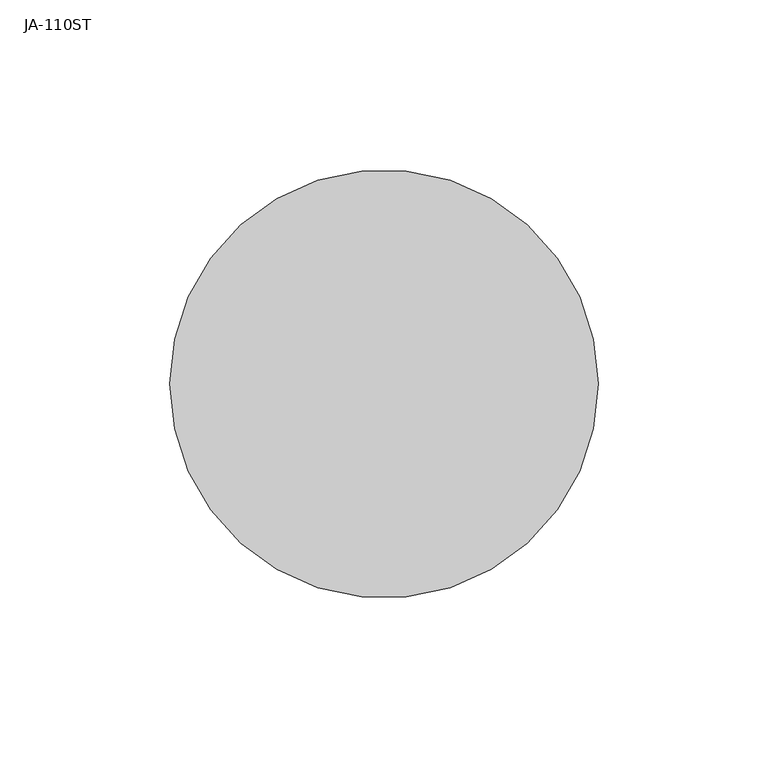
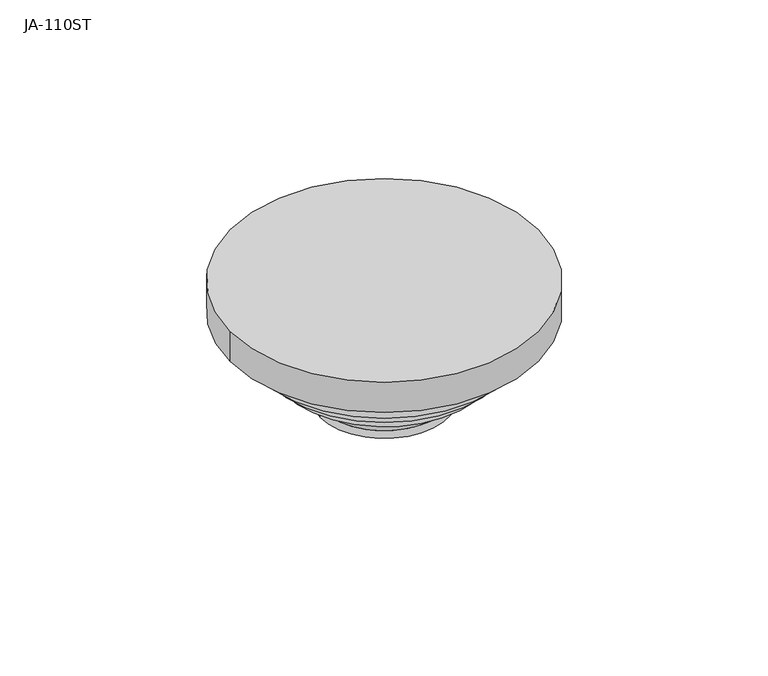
"""IFC4 building model written with IfcOpenShell, lengths in millimetres: proxy geometry, Environmentální detektory.CC : JA-110ST."""

from ifc_helpers import new_model, si_unit, frame, origin, origin_with_axes, place, context, project, spatial, polyline, circle_curve, source, transform, mapped, element, save
from ifc_brep_helpers import plane_surface, cylinder_surface, revolved_surface, advanced_brep


def ja_110st_ebcdd1e6(model_context):
    return source(origin(), model_context, "Body", "AdvancedBrep", [
        advanced_brep(
        [(26.2652348, 0.0, -50.0), (-26.2652348, 0.0, -50.0), (-63.0, 0.0, 0.0), (63.0, 0.0, 0.0), (-63.0, 0.0, -13.1032869), (63.0, 0.0, -13.1032869), (-26.2652348, 0.0, -46.6666657), (26.2652348, 0.0, -46.6666657), (31.3644661, 0.0, -40.7), (-31.3644661, 0.0, -40.7), (31.3644661, 0.0, -37.7), (-31.3644661, 0.0, -37.7), (40.9, 0.0, -34.7), (-40.9, 0.0, -34.7), (40.9, 0.0, -31.7), (-40.9, 0.0, -31.7), (46.9, 0.0, -28.7), (-46.9, 0.0, -28.7), (46.9, 0.0, -25.7), (-46.9, 0.0, -25.7), (52.9, 0.0, -22.7), (-52.9, 0.0, -22.7), (52.9, 0.0, -19.7), (-52.9, 0.0, -19.7)],
        [
            (0, 1, circle_curve(frame((0.0, 0.0, -50.0), z_axis=(0.0, 0.0, -1.0), x_axis=(1.0, 0.0, 0.0)), 26.2652348)),
            (1, 0, circle_curve(frame((0.0, 0.0, -50.0), z_axis=(0.0, 0.0, -1.0), x_axis=(-1.0, 0.0, 0.0)), 26.2652348)),
            (2, 3, circle_curve(origin_with_axes(), 63.0)),
            (3, 2, circle_curve(origin_with_axes(), 63.0)),
            (2, 4),
            (4, 5, circle_curve(frame((0.0, 0.0, -13.1032869), z_axis=(0.0, 0.0, 1.0), x_axis=(1.0, 0.0, 0.0)), 63.0)),
            (5, 3),
            (5, 4, circle_curve(frame((0.0, 0.0, -13.1032869), z_axis=(0.0, 0.0, 1.0), x_axis=(1.0, 0.0, 0.0)), 63.0)),
            (6, 1),
            (0, 7),
            (7, 6, circle_curve(frame((0.0, 0.0, -46.6666657), z_axis=(0.0, 0.0, -1.0), x_axis=(1.0, 0.0, 0.0)), 26.2652348)),
            (7, 8),
            (8, 9, circle_curve(frame((0.0, 0.0, -40.7), z_axis=(0.0, 0.0, -1.0), x_axis=(1.0, 0.0, 0.0)), 31.3644661)),
            (9, 6),
            (8, 10),
            (10, 11, circle_curve(frame((0.0, 0.0, -37.7), z_axis=(0.0, 0.0, -1.0), x_axis=(1.0, 0.0, 0.0)), 31.3644661)),
            (11, 9),
            (10, 12),
            (12, 13, circle_curve(frame((0.0, 0.0, -34.7), z_axis=(0.0, 0.0, -1.0), x_axis=(1.0, 0.0, 0.0)), 40.9)),
            (13, 11),
            (12, 14),
            (14, 15, circle_curve(frame((0.0, 0.0, -31.7), z_axis=(0.0, 0.0, -1.0), x_axis=(1.0, 0.0, 0.0)), 40.9)),
            (15, 13),
            (14, 16),
            (16, 17, circle_curve(frame((0.0, 0.0, -28.7), z_axis=(0.0, 0.0, -1.0), x_axis=(1.0, 0.0, 0.0)), 46.9)),
            (17, 15),
            (16, 18),
            (18, 19, circle_curve(frame((0.0, 0.0, -25.7), z_axis=(0.0, 0.0, -1.0), x_axis=(1.0, 0.0, 0.0)), 46.9)),
            (19, 17),
            (18, 20),
            (20, 21, circle_curve(frame((0.0, 0.0, -22.7), z_axis=(0.0, 0.0, -1.0), x_axis=(1.0, 0.0, 0.0)), 52.9)),
            (21, 19),
            (20, 22),
            (22, 23, circle_curve(frame((0.0, 0.0, -19.7), z_axis=(0.0, 0.0, -1.0), x_axis=(1.0, 0.0, 0.0)), 52.9)),
            (23, 21),
            (22, 5),
            (4, 23),
            (6, 7, circle_curve(frame((0.0, 0.0, -46.6666657), z_axis=(0.0, 0.0, -1.0), x_axis=(-1.0, 0.0, 0.0)), 26.2652348)),
            (9, 8, circle_curve(frame((0.0, 0.0, -40.7), z_axis=(0.0, 0.0, -1.0), x_axis=(-1.0, 0.0, 0.0)), 31.3644661)),
            (11, 10, circle_curve(frame((0.0, 0.0, -37.7), z_axis=(0.0, 0.0, -1.0), x_axis=(-1.0, 0.0, 0.0)), 31.3644661)),
            (13, 12, circle_curve(frame((0.0, 0.0, -34.7), z_axis=(0.0, 0.0, -1.0), x_axis=(-1.0, 0.0, 0.0)), 40.9)),
            (15, 14, circle_curve(frame((0.0, 0.0, -31.7), z_axis=(0.0, 0.0, -1.0), x_axis=(-1.0, 0.0, 0.0)), 40.9)),
            (17, 16, circle_curve(frame((0.0, 0.0, -28.7), z_axis=(0.0, 0.0, -1.0), x_axis=(-1.0, 0.0, 0.0)), 46.9)),
            (19, 18, circle_curve(frame((0.0, 0.0, -25.7), z_axis=(0.0, 0.0, -1.0), x_axis=(-1.0, 0.0, 0.0)), 46.9)),
            (21, 20, circle_curve(frame((0.0, 0.0, -22.7), z_axis=(0.0, 0.0, -1.0), x_axis=(-1.0, 0.0, 0.0)), 52.9)),
            (23, 22, circle_curve(frame((0.0, 0.0, -19.7), z_axis=(0.0, 0.0, -1.0), x_axis=(-1.0, 0.0, 0.0)), 52.9)),
        ],
        [
            plane_surface(frame((63.0, 0.0, -50.0), z_axis=(0.0, 0.0, -1.0), x_axis=(0.0, -1.0, 0.0))),
            plane_surface(frame((63.0, 0.0, 0.0), z_axis=(0.0, 0.0, 1.0), x_axis=(0.0, 1.0, 0.0))),
            cylinder_surface(frame((0.0, 0.0, -50.0), z_axis=(0.0, 0.0, 1.0), x_axis=(1.0, 0.0, 0.0)), 63.0),
            cylinder_surface(frame((0.0, 0.0, 0.0), z_axis=(0.0, 0.0, -1.0), x_axis=(1.0, 0.0, 0.0)), 26.2652348),
            revolved_surface(polyline([(31.3644661, 0.0, -40.7), (26.2652348, 0.0, -46.6666657)]), (0.0, 0.0, 0.0), (0.0, 0.0, -1.0)),
            cylinder_surface(frame((0.0, 0.0, 0.0), z_axis=(0.0, 0.0, -1.0), x_axis=(1.0, 0.0, 0.0)), 31.3644661),
            revolved_surface(polyline([(40.9, 0.0, -34.7), (31.3644661, 0.0, -37.7)]), (0.0, 0.0, 0.0), (0.0, 0.0, -1.0)),
            cylinder_surface(frame((0.0, 0.0, 0.0), z_axis=(0.0, 0.0, -1.0), x_axis=(1.0, 0.0, 0.0)), 40.9),
            revolved_surface(polyline([(46.9, 0.0, -28.7), (40.9, 0.0, -31.7)]), (0.0, 0.0, 0.0), (0.0, 0.0, -1.0)),
            cylinder_surface(frame((0.0, 0.0, 0.0), z_axis=(0.0, 0.0, -1.0), x_axis=(1.0, 0.0, 0.0)), 46.9),
            revolved_surface(polyline([(52.9, 0.0, -22.7), (46.9, 0.0, -25.7)]), (0.0, 0.0, 0.0), (0.0, 0.0, -1.0)),
            cylinder_surface(frame((0.0, 0.0, 0.0), z_axis=(0.0, 0.0, -1.0), x_axis=(1.0, 0.0, 0.0)), 52.9),
            revolved_surface(polyline([(63.0, 0.0, -13.1032869), (52.9, 0.0, -19.7)]), (0.0, 0.0, 0.0), (0.0, 0.0, -1.0)),
            cylinder_surface(frame((0.0, 0.0, 0.0), z_axis=(0.0, 0.0, -1.0), x_axis=(-1.0, 0.0, 0.0)), 26.2652348),
            revolved_surface(polyline([(-31.3644661, 0.0, -40.7), (-26.2652348, 0.0, -46.6666657)]), (0.0, 0.0, 0.0), (0.0, 0.0, -1.0)),
            cylinder_surface(frame((0.0, 0.0, 0.0), z_axis=(0.0, 0.0, -1.0), x_axis=(-1.0, 0.0, 0.0)), 31.3644661),
            revolved_surface(polyline([(-40.9, 0.0, -34.7), (-31.3644661, 0.0, -37.7)]), (0.0, 0.0, 0.0), (0.0, 0.0, -1.0)),
            cylinder_surface(frame((0.0, 0.0, 0.0), z_axis=(0.0, 0.0, -1.0), x_axis=(-1.0, 0.0, 0.0)), 40.9),
            revolved_surface(polyline([(-46.9, 0.0, -28.7), (-40.9, 0.0, -31.7)]), (0.0, 0.0, 0.0), (0.0, 0.0, -1.0)),
            cylinder_surface(frame((0.0, 0.0, 0.0), z_axis=(0.0, 0.0, -1.0), x_axis=(-1.0, 0.0, 0.0)), 46.9),
            revolved_surface(polyline([(-52.9, 0.0, -22.7), (-46.9, 0.0, -25.7)]), (0.0, 0.0, 0.0), (0.0, 0.0, -1.0)),
            cylinder_surface(frame((0.0, 0.0, 0.0), z_axis=(0.0, 0.0, -1.0), x_axis=(-1.0, 0.0, 0.0)), 52.9),
            revolved_surface(polyline([(-63.0, 0.0, -13.1032869), (-52.9, 0.0, -19.7)]), (0.0, 0.0, 0.0), (0.0, 0.0, -1.0)),
        ],
        [
            (0, [[1, 2]]),
            (1, [[3, 4]]),
            (2, [[-3, 5, 6, 7]]),
            (2, [[-4, -7, 8, -5]]),
            (3, [[9, -1, 10, 11]]),
            (4, [[-11, 12, 13, 14]]),
            (5, [[-13, 15, 16, 17]]),
            (6, [[-16, 18, 19, 20]]),
            (7, [[-19, 21, 22, 23]]),
            (8, [[-22, 24, 25, 26]]),
            (9, [[-25, 27, 28, 29]]),
            (10, [[-28, 30, 31, 32]]),
            (11, [[-31, 33, 34, 35]]),
            (12, [[-34, 36, -6, 37]]),
            (13, [[-9, 38, -10, -2]]),
            (14, [[-14, 39, -12, -38]]),
            (15, [[-17, 40, -15, -39]]),
            (16, [[-20, 41, -18, -40]]),
            (17, [[-23, 42, -21, -41]]),
            (18, [[-26, 43, -24, -42]]),
            (19, [[-29, 44, -27, -43]]),
            (20, [[-32, 45, -30, -44]]),
            (21, [[-35, 46, -33, -45]]),
            (22, [[-37, -8, -36, -46]]),
        ],
    ),
    ])


if __name__ == "__main__":
    model = new_model("IFC4")
    model_context = context("Model", 3, world=origin())
    ifc_project = project(units=[si_unit("LENGTHUNIT", "METRE", prefix="MILLI")], contexts=[model_context])
    site = spatial("IfcSite", under=ifc_project)
    building = spatial("IfcBuilding", under=site)
    placement = place(None, origin())
    ja_110st_shape = ja_110st_ebcdd1e6(model_context)
    element("IfcBuildingElementProxy", 1, Name="Environmentální detektory.CC : JA-110ST", ObjectType="Environmentální detektory.CC : JA-110ST", at=placement, inside=building, context=model_context, shape_type="MappedRepresentation", body=[
        mapped(ja_110st_shape, transform((0.0, 0.0, 0.0), x_axis=(1.0, 0.0, 0.0), y_axis=(0.0, 1.0, 0.0), z_axis=(0.0, 0.0, 1.0))),
    ])
    save(model, "model.ifc")
